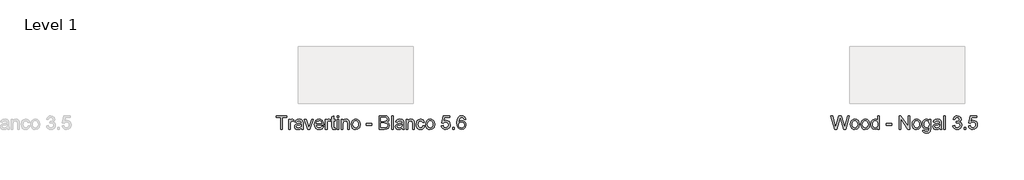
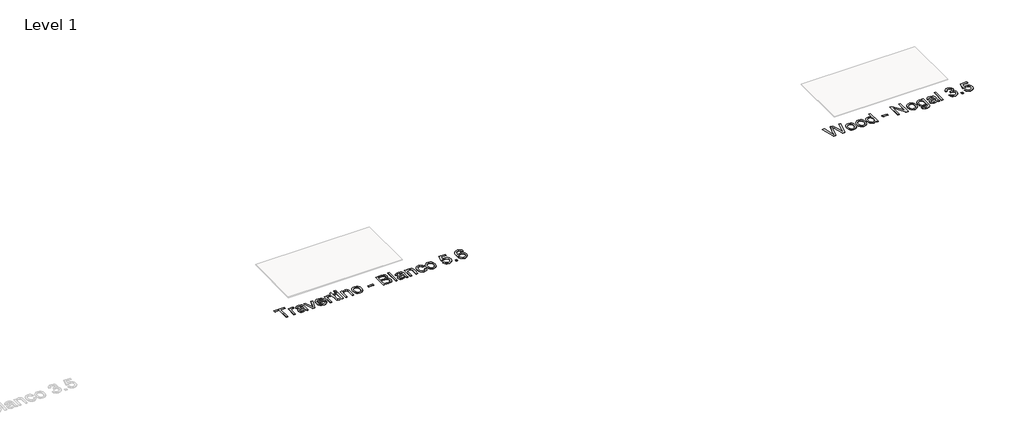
# One storey, part 20 of 80: 2 proxies.
"""IFC4 building model written with IfcOpenShell, lengths in millimetres."""

import ifcopenshell
import ifcopenshell.guid

model = None  # the IFC model being written
_history = None  # IfcOwnerHistory: only IFC2X3 demands one
_inside = {}  # id of a spatial element -> (the spatial element, [elements in it])
_under = {}  # id of a project, library or spatial element -> (it, [spatial elements below it])
_declared = {}  # id of a project -> (the project, [libraries it declares])
_typed = {}  # id of a type object -> (the type object, [elements of that type])
_made_of = {}  # id of a material, layer set ... -> (it, [elements and type objects made of it])


def new_model(schema):
    """Start an empty IFC model of exactly this schema.

    Asked for "IFC4X3", IfcOpenShell would pick the latest addendum, in which some entities
    have other attributes; the version numbers below select the first issue.
    IFC2X3 requires an IfcOwnerHistory on every rooted entity: one is made here for all.
    """
    global model, _history
    if schema == "IFC4X3":
        model = ifcopenshell.file(schema_version=(4, 3, 0, 0))
    else:
        model = ifcopenshell.file(schema=schema)
    _inside.clear()
    _under.clear()
    _declared.clear()
    _typed.clear()
    _made_of.clear()
    _history = None
    if model.schema == "IFC2X3":
        org = make("IfcOrganization", Name="unknown")
        user = make(
            "IfcPersonAndOrganization",
            ThePerson=make("IfcPerson", FamilyName="unknown"),
            TheOrganization=org,
        )
        app = make(
            "IfcApplication",
            ApplicationDeveloper=org,
            Version="unknown",
            ApplicationFullName="unknown",
            ApplicationIdentifier="unknown",
        )
        _history = make(
            "IfcOwnerHistory",
            OwningUser=user,
            OwningApplication=app,
            ChangeAction="ADDED",
            CreationDate=0,
        )
    return model


def make(cls, **values):
    """One entity of the class cls with the attributes given. An attribute that is None is left unset."""
    return model.create_entity(
        cls, **{name: value for name, value in values.items() if value is not None}
    )


def rooted(cls, **values):
    """An entity with a GlobalId (a new one), such as an element, a storey or a relation."""
    return make(cls, GlobalId=ifcopenshell.guid.new(), OwnerHistory=_history, **values)


def si_unit(unit_type, name, prefix=None):
    """IfcSIUnit, for example si_unit("LENGTHUNIT", "METRE", prefix="MILLI")."""
    return make("IfcSIUnit", UnitType=unit_type, Prefix=prefix, Name=name)


def assignment(units):
    """IfcUnitAssignment: the units of a project."""
    return None if units is None else make("IfcUnitAssignment", Units=units)


def point(xyz):
    """IfcCartesianPoint."""
    return None if xyz is None else make("IfcCartesianPoint", Coordinates=xyz)


def direction(xyz):
    """IfcDirection."""
    return None if xyz is None else make("IfcDirection", DirectionRatios=xyz)


def frame(location, z_axis=None, x_axis=None):
    """IfcAxis2Placement3D, a coordinate frame: its origin and axes. An axis left out is left unset."""
    return make(
        "IfcAxis2Placement3D",
        Location=point(location),
        Axis=direction(z_axis),
        RefDirection=direction(x_axis),
    )


def origin():
    """The frame at (0, 0, 0) with its axes left unset."""
    return frame((0.0, 0.0, 0.0))


def origin_with_axes():
    """The frame at (0, 0, 0) with the z axis (0, 0, 1) and the x axis (1, 0, 0) written out."""
    return frame((0.0, 0.0, 0.0), z_axis=(0.0, 0.0, 1.0), x_axis=(1.0, 0.0, 0.0))


def place(relative_to, where):
    """IfcLocalPlacement: puts the frame where relative to a parent placement (None: the world)."""
    return make(
        "IfcLocalPlacement", PlacementRelTo=relative_to, RelativePlacement=where
    )


def context(
    kind, dimensions, precision=None, world=None, true_north=None, identifier=None
):
    """IfcGeometricRepresentationContext, for example the 3D "Model" context."""
    return make(
        "IfcGeometricRepresentationContext",
        ContextIdentifier=identifier,
        ContextType=kind,
        CoordinateSpaceDimension=dimensions,
        Precision=precision,
        WorldCoordinateSystem=world,
        TrueNorth=true_north,
    )


def project(units=None, contexts=None):
    """IfcProject with its units and contexts."""
    return rooted(
        "IfcProject",
        Name="project",
        RepresentationContexts=contexts,
        UnitsInContext=assignment(units),
    )


def spatial(cls, under=None, at=None, **own):
    """A site, building, storey or space (cls), placed at a placement, below another one or the project."""
    s = rooted(cls, ObjectPlacement=at, **own)
    if under is not None:
        _under.setdefault(under.id(), (under, []))[1].append(s)
    return s


def polyline(points):
    """IfcPolyline through the points."""
    return make("IfcPolyline", Points=[point(p) for p in points])


def outline(outer, holes=None, kind="AREA"):
    """IfcArbitraryClosedProfileDef: a profile drawn as a closed curve; with holes, ...WithVoids."""
    if holes is None:
        return make("IfcArbitraryClosedProfileDef", ProfileType=kind, OuterCurve=outer)
    return make(
        "IfcArbitraryProfileDefWithVoids",
        ProfileType=kind,
        OuterCurve=outer,
        InnerCurves=holes,
    )


def extrude(swept, where, along, depth):
    """IfcExtrudedAreaSolid: the profile swept, set in the frame where, extruded along a direction by depth."""
    return make(
        "IfcExtrudedAreaSolid",
        SweptArea=swept,
        Position=where,
        ExtrudedDirection=direction(along),
        Depth=depth,
    )


def shape(context_of_items, identifier, shape_type, items):
    """IfcShapeRepresentation: the items that make up one representation, for example the "Body"."""
    return make(
        "IfcShapeRepresentation",
        ContextOfItems=context_of_items,
        RepresentationIdentifier=identifier,
        RepresentationType=shape_type,
        Items=items,
    )


def made_of(thing, what):
    """Note that an element or type object is made of a material, layer set ...; save() writes the relation."""
    if what is not None:
        _made_of.setdefault(what.id(), (what, []))[1].append(thing)
    return thing


def element(
    cls,
    number,
    at=None,
    inside=None,
    cuts=None,
    type_object=None,
    material=None,
    context=None,
    identifier="Body",
    shape_type=None,
    held_by="IfcProductDefinitionShape",
    body=None,
    shapes=None,
    **own,
):
    """One element of the class cls, such as IfcWall. Its Tag is "e" and its number.

    at: its placement. inside: the storey or other place that contains it. cuts: it is an
    opening in that element (IfcRelVoidsElement). A single representation is given by context,
    identifier, shape_type and body (its items); several are given by shapes. held_by: the class
    of the entity that holds the representations. save() writes the other relations.
    """
    e = rooted(cls, Tag="e%d" % number, ObjectPlacement=at, **own)
    if body is not None:
        shapes = [shape(context, identifier, shape_type, body)]
    if shapes is not None:
        e.Representation = make(held_by, Representations=shapes)
    if inside is not None:
        _inside.setdefault(inside.id(), (inside, []))[1].append(e)
    if cuts is not None:
        rooted(
            "IfcRelVoidsElement", RelatingBuildingElement=cuts, RelatedOpeningElement=e
        )
    if type_object is not None:
        _typed.setdefault(type_object.id(), (type_object, []))[1].append(e)
    return made_of(e, material)


def aggregate(whole, parts):
    """IfcRelAggregates: a whole, such as a stair, and the parts it consists of."""
    return rooted("IfcRelAggregates", RelatingObject=whole, RelatedObjects=parts)


def save(model, path):
    """Write the relations noted so far, then the file.

    IfcRelAggregates (storeys below a building ...), IfcRelContainedInSpatialStructure (elements
    in a storey), IfcRelDefinesByType, IfcRelAssociatesMaterial and IfcRelDeclares: one each for
    every whole, place, type object, material and project.
    """
    for whole, parts in _under.values():
        aggregate(whole, parts)
    for where, things in _inside.values():
        rooted(
            "IfcRelContainedInSpatialStructure",
            RelatedElements=things,
            RelatingStructure=where,
        )
    for kind, things in _typed.values():
        rooted("IfcRelDefinesByType", RelatedObjects=things, RelatingType=kind)
    for what, things in _made_of.values():
        rooted("IfcRelAssociatesMaterial", RelatedObjects=things, RelatingMaterial=what)
    for by, libraries in _declared.values():
        rooted("IfcRelDeclares", RelatingContext=by, RelatedDefinitions=libraries)
    model.write(path)


model = new_model("IFC4")

# Units and contexts
model_context = context("Model", 3, world=origin())
ifc_project = project(units=[si_unit("LENGTHUNIT", "METRE", prefix="MILLI")], contexts=[model_context])

# Site, building, storey
site = spatial("IfcSite", under=ifc_project)
building = spatial("IfcBuilding", under=site)
storey = spatial("IfcBuildingStorey", under=building, Name="Level 1", Elevation=0.0)

# Proxies
placement = place(None, origin())
element("IfcBuildingElementProxy", 1, Name="24\" Arial", ObjectType="24\" Arial", at=placement, inside=storey, context=model_context, shape_type="SweptSolid", body=[
    extrude(outline(polyline([(-15856.3068771, -12422.5921493), (-15856.3068771, -12319.2075339), (-15895.0761079, -12319.2075339), (-15895.0761079, -12304.4383031), (-15802.7684156, -12304.4383031), (-15802.7684156, -12319.2075339), (-15841.5376464, -12319.2075339), (-15841.5376464, -12422.5921493), (-15856.3068771, -12422.5921493)])), origin_with_axes(), (0.0, 0.0, 1.0), 2.0),
    extrude(outline(polyline([(-15787.9991848, -12422.5921493), (-15787.9991848, -12335.8229185), (-15775.0761079, -12335.8229185), (-15775.0761079, -12348.659457), (-15765.903031, -12336.8325339), (-15756.6722617, -12333.9767646), (-15741.8453387, -12338.534457), (-15746.778031, -12351.7748416), (-15757.1626464, -12348.7459954), (-15765.5136079, -12351.659457), (-15770.8357233, -12359.73638), (-15773.2299541, -12376.98638), (-15773.2299541, -12422.5921493), (-15787.9991848, -12422.5921493)])), origin_with_axes(), (0.0, 0.0, 1.0), 2.0),
    extrude(outline(polyline([(-15677.2299541, -12411.5152262), (-15691.5520694, -12421.5248416), (-15707.3741848, -12424.4383031), (-15719.7167329, -12422.6858993), (-15728.8213002, -12417.4286877), (-15734.4354829, -12409.4455146), (-15736.3068771, -12399.5152262), (-15733.4799541, -12387.8325339), (-15726.0520694, -12379.3517646), (-15715.7107233, -12374.5056108), (-15702.9318771, -12372.284457), (-15677.3164925, -12367.2075339), (-15677.2299541, -12363.9190723), (-15681.2972617, -12353.0152262), (-15697.6241848, -12348.7459954), (-15712.5664925, -12351.5873416), (-15719.6914925, -12361.6690723), (-15734.4607233, -12359.8229185), (-15728.0713002, -12345.3998416), (-15715.2059156, -12336.9479185), (-15695.7203387, -12333.9767646), (-15677.8213002, -12336.6017646), (-15667.7107233, -12343.1931108), (-15663.1818771, -12353.2171493), (-15662.4607233, -12366.1402262), (-15662.4607233, -12384.5152262), (-15661.7107233, -12410.17388), (-15658.7684156, -12422.5921493), (-15673.5376464, -12422.5921493), (-15677.2299541, -12411.5152262)]), holes=[polyline([(-15677.2299541, -12381.9767646), (-15701.0568771, -12386.5056108), (-15713.7636079, -12388.8998416), (-15719.5184156, -12392.7940723), (-15721.5376464, -12398.4767646), (-15717.1386079, -12406.4671493), (-15704.2299541, -12409.6690723), (-15689.2876464, -12406.1354185), (-15679.653031, -12397.5825339), (-15677.3164925, -12386.159457), (-15677.2299541, -12381.9767646)])]), origin_with_axes(), (0.0, 0.0, 1.0), 2.0),
    extrude(outline(polyline([(-15620.8645694, -12422.5921493), (-15651.3838002, -12335.8229185), (-15635.7491848, -12335.8229185), (-15617.2588002, -12387.8036877), (-15611.6914925, -12405.284457), (-15606.2395694, -12388.784457), (-15587.6338002, -12335.8229185), (-15571.9991848, -12335.8229185), (-15602.1434156, -12422.5921493), (-15620.8645694, -12422.5921493)])), origin_with_axes(), (0.0, 0.0, 1.0), 2.0),
    extrude(outline(polyline([(-15498.3261079, -12396.7459954), (-15483.8453387, -12398.5921493), (-15489.0628867, -12409.503207), (-15497.3886079, -12417.659457), (-15508.6350021, -12422.7435916), (-15522.6145694, -12424.4383031), (-15539.9438964, -12421.5140243), (-15553.278031, -12412.7411877), (-15561.7804348, -12398.689505), (-15564.6145694, -12379.9286877), (-15561.7515887, -12360.5368608), (-15553.1626464, -12346.034457), (-15540.0088002, -12336.9911877), (-15523.4511079, -12333.9767646), (-15507.4090406, -12336.9839762), (-15494.590531, -12346.0056108), (-15486.1854829, -12360.4791685), (-15483.3838002, -12379.8421493), (-15483.4703387, -12383.8229185), (-15549.8453387, -12383.8229185), (-15547.2888483, -12394.878207), (-15541.3501464, -12403.0056108), (-15532.7792329, -12408.003207), (-15522.3261079, -12409.6690723), (-15507.8453387, -12406.5825339), (-15498.3261079, -12396.7459954)]), holes=[polyline([(-15549.8453387, -12369.0536877), (-15498.153031, -12369.0536877), (-15504.0664925, -12355.6690723), (-15512.6770694, -12350.4767646), (-15523.5088002, -12348.7459954), (-15541.6963002, -12354.2700339), (-15547.418656, -12360.7279666), (-15549.8453387, -12369.0536877)])]), origin_with_axes(), (0.0, 0.0, 1.0), 2.0),
    extrude(outline(polyline([(-15468.6145694, -12422.5921493), (-15468.6145694, -12335.8229185), (-15455.6914925, -12335.8229185), (-15455.6914925, -12348.659457), (-15446.5184156, -12336.8325339), (-15437.2876464, -12333.9767646), (-15422.4607233, -12338.534457), (-15427.3934156, -12351.7748416), (-15437.778031, -12348.7459954), (-15446.1289925, -12351.659457), (-15451.4511079, -12359.73638), (-15453.8453387, -12376.98638), (-15453.8453387, -12422.5921493), (-15468.6145694, -12422.5921493)])), origin_with_axes(), (0.0, 0.0, 1.0), 2.0),
    extrude(outline(polyline([(-15381.8453387, -12410.2748416), (-15379.9991848, -12423.0248416), (-15391.0472617, -12424.4383031), (-15403.4222617, -12421.98638), (-15409.5953387, -12415.5536877), (-15411.3838002, -12398.7940723), (-15411.3838002, -12350.5921493), (-15422.4607233, -12350.5921493), (-15422.4607233, -12335.8229185), (-15411.3838002, -12335.8229185), (-15411.3838002, -12314.73638), (-15396.6145694, -12306.0536877), (-15396.6145694, -12335.8229185), (-15381.8453387, -12335.8229185), (-15381.8453387, -12350.5921493), (-15396.6145694, -12350.5921493), (-15396.6145694, -12398.36138), (-15395.8357233, -12405.9767646), (-15393.3116848, -12408.67388), (-15388.278031, -12409.6690723), (-15381.8453387, -12410.2748416)])), origin_with_axes(), (0.0, 0.0, 1.0), 2.0),
    extrude(outline(polyline([(-15367.0761079, -12319.2075339), (-15367.0761079, -12304.4383031), (-15352.3068771, -12304.4383031), (-15352.3068771, -12319.2075339), (-15367.0761079, -12319.2075339)])), origin_with_axes(), (0.0, 0.0, 1.0), 2.0),
    extrude(outline(polyline([(-15367.0761079, -12422.5921493), (-15367.0761079, -12335.8229185), (-15352.3068771, -12335.8229185), (-15352.3068771, -12422.5921493), (-15367.0761079, -12422.5921493)])), origin_with_axes(), (0.0, 0.0, 1.0), 2.0),
    extrude(outline(polyline([(-15330.153031, -12422.5921493), (-15330.153031, -12335.8229185), (-15315.3838002, -12335.8229185), (-15315.3838002, -12347.9383031), (-15304.090531, -12337.4671493), (-15288.6722617, -12333.9767646), (-15274.7251464, -12336.7892646), (-15265.2059156, -12344.17388), (-15260.778031, -12355.034457), (-15259.9991848, -12369.3133031), (-15259.9991848, -12422.5921493), (-15274.7684156, -12422.5921493), (-15274.7684156, -12371.3036877), (-15276.4703387, -12358.23638), (-15282.4847617, -12351.3277262), (-15292.6241848, -12348.7459954), (-15308.6482233, -12354.5440723), (-15313.699906, -12362.9455146), (-15315.3838002, -12376.5536877), (-15315.3838002, -12422.5921493), (-15330.153031, -12422.5921493)])), origin_with_axes(), (0.0, 0.0, 1.0), 2.0),
    extrude(outline(polyline([(-15243.3838002, -12379.2075339), (-15240.1890887, -12358.2868608), (-15230.6049541, -12343.5825339), (-15218.7636079, -12336.378207), (-15204.5857233, -12333.9767646), (-15189.0700983, -12336.9010435), (-15176.6770694, -12345.67388), (-15168.5532714, -12359.6029666), (-15165.8453387, -12377.9959954), (-15170.6338002, -12404.2748416), (-15184.5809156, -12419.1450339), (-15204.5857233, -12424.4383031), (-15220.2888483, -12421.5248416), (-15232.6674541, -12412.784457), (-15240.7047137, -12398.5633031), (-15243.3838002, -12379.2075339)]), holes=[polyline([(-15228.6145694, -12379.1786877), (-15226.9054348, -12392.5452743), (-15221.778031, -12402.0681108), (-15214.0616848, -12407.768832), (-15204.5857233, -12409.6690723), (-15195.153031, -12407.7580146), (-15187.4511079, -12402.0248416), (-15182.3237041, -12392.3758031), (-15180.6145694, -12378.7171493), (-15182.3345214, -12365.7399858), (-15187.4943771, -12356.346957), (-15195.2071175, -12350.6462358), (-15204.5857233, -12348.7459954), (-15214.0616848, -12350.6390243), (-15221.778031, -12356.3181108), (-15226.9054348, -12365.8193127), (-15228.6145694, -12379.1786877)])]), origin_with_axes(), (0.0, 0.0, 1.0), 2.0),
    extrude(outline(polyline([(-15110.4607233, -12387.5152262), (-15110.4607233, -12372.7459954), (-15064.3068771, -12372.7459954), (-15064.3068771, -12387.5152262), (-15110.4607233, -12387.5152262)])), origin_with_axes(), (0.0, 0.0, 1.0), 2.0),
    extrude(outline(polyline([(-14999.6914925, -12422.5921493), (-14999.6914925, -12304.4383031), (-14954.6049541, -12304.4383031), (-14932.5232233, -12307.9142646), (-14919.4847617, -12318.6017646), (-14914.7684156, -12333.7171493), (-14918.7347617, -12347.5200339), (-14930.7203387, -12357.9767646), (-14916.1674541, -12368.9959954), (-14911.0761079, -12387.3709954), (-14914.5520694, -12403.2508031), (-14923.1626464, -12414.5584954), (-14936.0136079, -12420.5584954), (-14954.9511079, -12422.5921493), (-14999.6914925, -12422.5921493)]), holes=[polyline([(-14984.9222617, -12407.8229185), (-14954.6338002, -12407.8229185), (-14943.6722617, -12407.2459954), (-14934.3982233, -12404.0296493), (-14928.2539925, -12397.4671493), (-14925.8453387, -12387.5152262), (-14928.6722617, -12376.034457), (-14937.8309156, -12369.1834954), (-14956.0761079, -12367.2075339), (-14984.9222617, -12367.2075339), (-14984.9222617, -12407.8229185)]), polyline([(-14984.9222617, -12352.4383031), (-14957.9511079, -12352.4383031), (-14942.2011079, -12351.1690723), (-14932.7251464, -12345.7027262), (-14929.5376464, -12336.0825339), (-14932.5088002, -12326.4479185), (-14941.0184156, -12320.7508031), (-14959.9991848, -12319.2075339), (-14984.9222617, -12319.2075339), (-14984.9222617, -12352.4383031)])]), origin_with_axes(), (0.0, 0.0, 1.0), 2.0),
    extrude(outline(polyline([(-14892.6145694, -12422.5921493), (-14892.6145694, -12304.4383031), (-14877.8453387, -12304.4383031), (-14877.8453387, -12422.5921493), (-14892.6145694, -12422.5921493)])), origin_with_axes(), (0.0, 0.0, 1.0), 2.0),
    extrude(outline(polyline([(-14800.3068771, -12411.5152262), (-14814.6289925, -12421.5248416), (-14830.4511079, -12424.4383031), (-14842.793656, -12422.6858993), (-14851.8982233, -12417.4286877), (-14857.512406, -12409.4455146), (-14859.3838002, -12399.5152262), (-14856.5568771, -12387.8325339), (-14849.1289925, -12379.3517646), (-14838.7876464, -12374.5056108), (-14826.0088002, -12372.284457), (-14800.3934156, -12367.2075339), (-14800.3068771, -12363.9190723), (-14804.3741848, -12353.0152262), (-14820.7011079, -12348.7459954), (-14835.6434156, -12351.5873416), (-14842.7684156, -12361.6690723), (-14857.5376464, -12359.8229185), (-14851.1482233, -12345.3998416), (-14838.2828387, -12336.9479185), (-14818.7972617, -12333.9767646), (-14800.8982233, -12336.6017646), (-14790.7876464, -12343.1931108), (-14786.2588002, -12353.2171493), (-14785.5376464, -12366.1402262), (-14785.5376464, -12384.5152262), (-14784.7876464, -12410.17388), (-14781.8453387, -12422.5921493), (-14796.6145694, -12422.5921493), (-14800.3068771, -12411.5152262)]), holes=[polyline([(-14800.3068771, -12381.9767646), (-14824.1338002, -12386.5056108), (-14836.840531, -12388.8998416), (-14842.5953387, -12392.7940723), (-14844.6145694, -12398.4767646), (-14840.215531, -12406.4671493), (-14827.3068771, -12409.6690723), (-14812.3645694, -12406.1354185), (-14802.7299541, -12397.5825339), (-14800.3934156, -12386.159457), (-14800.3068771, -12381.9767646)])]), origin_with_axes(), (0.0, 0.0, 1.0), 2.0),
    extrude(outline(polyline([(-14765.2299541, -12422.5921493), (-14765.2299541, -12335.8229185), (-14750.4607233, -12335.8229185), (-14750.4607233, -12347.9383031), (-14739.1674541, -12337.4671493), (-14723.7491848, -12333.9767646), (-14709.8020694, -12336.7892646), (-14700.2828387, -12344.17388), (-14695.8549541, -12355.034457), (-14695.0761079, -12369.3133031), (-14695.0761079, -12422.5921493), (-14709.8453387, -12422.5921493), (-14709.8453387, -12371.3036877), (-14711.5472617, -12358.23638), (-14717.5616848, -12351.3277262), (-14727.7011079, -12348.7459954), (-14743.7251464, -12354.5440723), (-14748.7768291, -12362.9455146), (-14750.4607233, -12376.5536877), (-14750.4607233, -12422.5921493), (-14765.2299541, -12422.5921493)])), origin_with_axes(), (0.0, 0.0, 1.0), 2.0),
    extrude(outline(polyline([(-14619.3838002, -12391.2075339), (-14604.6145694, -12393.0536877), (-14608.7323579, -12406.189505), (-14616.4703387, -12416.1161877), (-14627.1001464, -12422.3577743), (-14639.8934156, -12424.4383031), (-14655.6037521, -12421.5356589), (-14667.8886079, -12412.8277262), (-14675.8176944, -12398.6967166), (-14678.4607233, -12379.5248416), (-14673.9463002, -12354.9911877), (-14668.2491848, -12345.7928704), (-14660.1866848, -12339.2267646), (-14640.0953387, -12333.9767646), (-14627.6157714, -12335.7796493), (-14617.6386079, -12341.1883031), (-14610.481156, -12349.9142646), (-14606.4607233, -12361.6690723), (-14621.2299541, -12363.5152262), (-14628.0809156, -12352.4527262), (-14639.9799541, -12348.7459954), (-14649.5244252, -12350.5705146), (-14657.1001464, -12356.0440723), (-14662.043656, -12365.4623416), (-14663.6914925, -12379.1209954), (-14662.0797137, -12392.9635435), (-14657.2443771, -12402.4142646), (-14649.8056752, -12407.8553704), (-14640.3838002, -12409.6690723), (-14626.465531, -12405.1402262), (-14619.3838002, -12391.2075339)])), origin_with_axes(), (0.0, 0.0, 1.0), 2.0),
    extrude(outline(polyline([(-14595.3838002, -12379.2075339), (-14592.1890887, -12358.2868608), (-14582.6049541, -12343.5825339), (-14570.7636079, -12336.378207), (-14556.5857233, -12333.9767646), (-14541.0700983, -12336.9010435), (-14528.6770694, -12345.67388), (-14520.5532714, -12359.6029666), (-14517.8453387, -12377.9959954), (-14522.6338002, -12404.2748416), (-14536.5809156, -12419.1450339), (-14556.5857233, -12424.4383031), (-14572.2888483, -12421.5248416), (-14584.6674541, -12412.784457), (-14592.7047137, -12398.5633031), (-14595.3838002, -12379.2075339)]), holes=[polyline([(-14580.6145694, -12379.1786877), (-14578.9054348, -12392.5452743), (-14573.778031, -12402.0681108), (-14566.0616848, -12407.768832), (-14556.5857233, -12409.6690723), (-14547.153031, -12407.7580146), (-14539.4511079, -12402.0248416), (-14534.3237041, -12392.3758031), (-14532.6145694, -12378.7171493), (-14534.3345214, -12365.7399858), (-14539.4943771, -12356.346957), (-14547.2071175, -12350.6462358), (-14556.5857233, -12348.7459954), (-14566.0616848, -12350.6390243), (-14573.778031, -12356.3181108), (-14578.9054348, -12365.8193127), (-14580.6145694, -12379.1786877)])]), origin_with_axes(), (0.0, 0.0, 1.0), 2.0),
    extrude(outline(polyline([(-14458.7684156, -12391.2075339), (-14443.9991848, -12389.36138), (-14436.5568771, -12404.5777262), (-14421.1241848, -12409.6690723), (-14410.5376464, -12407.8986396), (-14402.6049541, -12402.5873416), (-14397.6506271, -12394.3481589), (-14395.9991848, -12383.7940723), (-14397.5460598, -12373.8565723), (-14402.1866848, -12366.2556108), (-14409.9571175, -12361.4310916), (-14420.8934156, -12359.8229185), (-14433.8597617, -12362.3902262), (-14442.153031, -12369.0536877), (-14456.9222617, -12367.2075339), (-14443.9991848, -12306.284457), (-14386.7684156, -12306.284457), (-14386.7684156, -12321.0536877), (-14432.0568771, -12321.0536877), (-14438.3741848, -12353.5921493), (-14427.8237041, -12347.1883031), (-14416.7684156, -12345.0536877), (-14402.9691367, -12347.7003223), (-14391.5136079, -12355.6402262), (-14383.8008675, -12367.7411877), (-14381.2299541, -12382.8709954), (-14383.5448579, -12397.6402262), (-14390.4895694, -12410.2748416), (-14403.7876464, -12420.8974377), (-14421.1818771, -12424.4383031), (-14435.6878867, -12422.1630627), (-14447.2443771, -12415.3373416), (-14455.1662521, -12404.7544089), (-14458.7684156, -12391.2075339)])), origin_with_axes(), (0.0, 0.0, 1.0), 2.0),
    extrude(outline(polyline([(-14360.9222617, -12422.5921493), (-14360.9222617, -12407.8229185), (-14346.153031, -12407.8229185), (-14346.153031, -12422.5921493), (-14360.9222617, -12422.5921493)])), origin_with_axes(), (0.0, 0.0, 1.0), 2.0),
    extrude(outline(polyline([(-14246.4607233, -12335.8229185), (-14261.2299541, -12337.6690723), (-14266.8261079, -12325.3517646), (-14273.5256271, -12320.7435916), (-14281.6241848, -12319.2075339), (-14294.9511079, -12322.784457), (-14305.0328387, -12336.2123416), (-14309.2299541, -12362.534457), (-14296.2059156, -12350.7508031), (-14280.0664925, -12346.8998416), (-14266.4222617, -12349.5320531), (-14254.9703387, -12357.4286877), (-14247.2035117, -12369.4935916), (-14244.6145694, -12384.6306108), (-14249.4895694, -12405.0104185), (-14262.903031, -12419.4334954), (-14282.2588002, -12424.4383031), (-14299.0148098, -12421.1209954), (-14312.3597617, -12411.1690723), (-14321.0893291, -12393.6017646), (-14323.9991848, -12367.4383031), (-14320.7684156, -12338.0224377), (-14311.0761079, -12317.909457), (-14297.8429348, -12307.8060916), (-14280.7011079, -12304.4383031), (-14267.7419733, -12306.5224377), (-14257.3645694, -12312.7748416), (-14250.0953387, -12322.70513), (-14246.4607233, -12335.8229185)]), holes=[polyline([(-14309.2299541, -12384.3998416), (-14305.8116848, -12397.1931108), (-14296.7251464, -12406.4815723), (-14283.4126464, -12409.6690723), (-14273.6662521, -12408.01763), (-14266.0039925, -12403.0633031), (-14261.0388483, -12395.2748416), (-14259.3838002, -12385.1209954), (-14261.0172137, -12375.3746012), (-14265.9174541, -12367.9431108), (-14273.7095214, -12363.237582), (-14284.0184156, -12361.6690723), (-14293.7503867, -12363.237582), (-14301.8886079, -12367.9431108), (-14307.3946175, -12375.1943127), (-14309.2299541, -12384.3998416)])]), origin_with_axes(), (0.0, 0.0, 1.0), 2.0),
])
element("IfcBuildingElementProxy", 2, Name="24\" Arial", ObjectType="24\" Arial", at=placement, inside=storey, context=model_context, shape_type="SweptSolid", body=[
    extrude(outline(polyline([(-11036.3934156, -12422.5921493), (-11068.6145694, -12304.4383031), (-11053.3838002, -12304.4383031), (-11034.6914925, -12382.0921493), (-11028.9222617, -12406.0633031), (-11022.7491848, -12384.86138), (-10999.3261079, -12304.4383031), (-10977.3741848, -12304.4383031), (-10960.3549541, -12362.73638), (-10947.6914925, -12406.0633031), (-10942.0953387, -12382.784457), (-10923.2299541, -12304.4383031), (-10907.9991848, -12304.4383031), (-10940.2491848, -12422.5921493), (-10956.028031, -12422.5921493), (-10984.3549541, -12331.4383031), (-10988.3068771, -12318.7171493), (-10992.7491848, -12334.034457), (-11018.5664925, -12422.5921493), (-11036.3934156, -12422.5921493)])), origin_with_axes(), (0.0, 0.0, 1.0), 2.0),
    extrude(outline(polyline([(-10898.7684156, -12379.2075339), (-10895.5737041, -12358.2868608), (-10885.9895694, -12343.5825339), (-10874.1482233, -12336.378207), (-10859.9703387, -12333.9767646), (-10844.4547137, -12336.9010435), (-10832.0616848, -12345.67388), (-10823.9378867, -12359.6029666), (-10821.2299541, -12377.9959954), (-10826.0184156, -12404.2748416), (-10839.965531, -12419.1450339), (-10859.9703387, -12424.4383031), (-10875.6734637, -12421.5248416), (-10888.0520694, -12412.784457), (-10896.0893291, -12398.5633031), (-10898.7684156, -12379.2075339)]), holes=[polyline([(-10883.9991848, -12379.1786877), (-10882.2900502, -12392.5452743), (-10877.1626464, -12402.0681108), (-10869.4463002, -12407.768832), (-10859.9703387, -12409.6690723), (-10850.5376464, -12407.7580146), (-10842.8357233, -12402.0248416), (-10837.7083194, -12392.3758031), (-10835.9991848, -12378.7171493), (-10837.7191367, -12365.7399858), (-10842.8789925, -12356.346957), (-10850.5917329, -12350.6462358), (-10859.9703387, -12348.7459954), (-10869.4463002, -12350.6390243), (-10877.1626464, -12356.3181108), (-10882.2900502, -12365.8193127), (-10883.9991848, -12379.1786877)])]), origin_with_axes(), (0.0, 0.0, 1.0), 2.0),
    extrude(outline(polyline([(-10808.3068771, -12379.2075339), (-10805.1121656, -12358.2868608), (-10795.528031, -12343.5825339), (-10783.6866848, -12336.378207), (-10769.5088002, -12333.9767646), (-10753.9931752, -12336.9010435), (-10741.6001464, -12345.67388), (-10733.4763483, -12359.6029666), (-10730.7684156, -12377.9959954), (-10735.5568771, -12404.2748416), (-10749.5039925, -12419.1450339), (-10769.5088002, -12424.4383031), (-10785.2119252, -12421.5248416), (-10797.590531, -12412.784457), (-10805.6277906, -12398.5633031), (-10808.3068771, -12379.2075339)]), holes=[polyline([(-10793.5376464, -12379.1786877), (-10791.8285117, -12392.5452743), (-10786.7011079, -12402.0681108), (-10778.9847617, -12407.768832), (-10769.5088002, -12409.6690723), (-10760.0761079, -12407.7580146), (-10752.3741848, -12402.0248416), (-10747.246781, -12392.3758031), (-10745.5376464, -12378.7171493), (-10747.2575983, -12365.7399858), (-10752.4174541, -12356.346957), (-10760.1301944, -12350.6462358), (-10769.5088002, -12348.7459954), (-10778.9847617, -12350.6390243), (-10786.7011079, -12356.3181108), (-10791.8285117, -12365.8193127), (-10793.5376464, -12379.1786877)])]), origin_with_axes(), (0.0, 0.0, 1.0), 2.0),
    extrude(outline(polyline([(-10660.6145694, -12422.5921493), (-10660.6145694, -12408.659457), (-10670.3862041, -12420.4935916), (-10683.8934156, -12424.4383031), (-10702.1818771, -12418.7267646), (-10715.1049541, -12402.7892646), (-10719.6914925, -12379.2940723), (-10715.465531, -12355.784457), (-10710.1866848, -12346.4599377), (-10702.8020694, -12339.6017646), (-10683.9511079, -12333.9767646), (-10670.3357233, -12338.0008031), (-10660.6145694, -12348.4575339), (-10660.6145694, -12304.4383031), (-10645.8453387, -12304.4383031), (-10645.8453387, -12422.5921493), (-10660.6145694, -12422.5921493)]), holes=[polyline([(-10704.9222617, -12379.23638), (-10703.2563964, -12392.595755), (-10698.2588002, -12402.096957), (-10690.996781, -12407.7760435), (-10682.5376464, -12409.6690723), (-10674.0821175, -12407.862582), (-10667.0039925, -12402.4431108), (-10662.2119252, -12393.3096973), (-10660.6145694, -12380.36138), (-10662.2407714, -12366.20513), (-10667.1193771, -12356.3902262), (-10674.3777906, -12350.6570531), (-10683.1434156, -12348.7459954), (-10691.6890887, -12350.581332), (-10698.6914925, -12356.0873416), (-10703.3645694, -12365.5452743), (-10704.9222617, -12379.23638)])]), origin_with_axes(), (0.0, 0.0, 1.0), 2.0),
    extrude(outline(polyline([(-10584.9222617, -12387.5152262), (-10584.9222617, -12372.7459954), (-10538.7684156, -12372.7459954), (-10538.7684156, -12387.5152262), (-10584.9222617, -12387.5152262)])), origin_with_axes(), (0.0, 0.0, 1.0), 2.0),
    extrude(outline(polyline([(-10474.153031, -12422.5921493), (-10474.153031, -12304.4383031), (-10458.3453387, -12304.4383031), (-10396.6145694, -12398.0440723), (-10396.6145694, -12304.4383031), (-10381.8453387, -12304.4383031), (-10381.8453387, -12422.5921493), (-10397.653031, -12422.5921493), (-10459.3838002, -12328.9575339), (-10459.3838002, -12422.5921493), (-10474.153031, -12422.5921493)])), origin_with_axes(), (0.0, 0.0, 1.0), 2.0),
    extrude(outline(polyline([(-10361.5376464, -12379.2075339), (-10358.3429348, -12358.2868608), (-10348.7588002, -12343.5825339), (-10336.9174541, -12336.378207), (-10322.7395694, -12333.9767646), (-10307.2239444, -12336.9010435), (-10294.8309156, -12345.67388), (-10286.7071175, -12359.6029666), (-10283.9991848, -12377.9959954), (-10288.7876464, -12404.2748416), (-10302.7347617, -12419.1450339), (-10322.7395694, -12424.4383031), (-10338.4426944, -12421.5248416), (-10350.8213002, -12412.784457), (-10358.8585598, -12398.5633031), (-10361.5376464, -12379.2075339)]), holes=[polyline([(-10346.7684156, -12379.1786877), (-10345.059281, -12392.5452743), (-10339.9318771, -12402.0681108), (-10332.215531, -12407.768832), (-10322.7395694, -12409.6690723), (-10313.3068771, -12407.7580146), (-10305.6049541, -12402.0248416), (-10300.4775502, -12392.3758031), (-10298.7684156, -12378.7171493), (-10300.4883675, -12365.7399858), (-10305.6482233, -12356.346957), (-10313.3609637, -12350.6462358), (-10322.7395694, -12348.7459954), (-10332.215531, -12350.6390243), (-10339.9318771, -12356.3181108), (-10345.059281, -12365.8193127), (-10346.7684156, -12379.1786877)])]), origin_with_axes(), (0.0, 0.0, 1.0), 2.0),
    extrude(outline(polyline([(-10271.0761079, -12429.9767646), (-10256.3068771, -12431.8229185), (-10251.5184156, -12439.61138), (-10237.1818771, -12442.8998416), (-10222.0664925, -12439.1786877), (-10214.8549541, -12428.73638), (-10213.8453387, -12411.5152262), (-10224.2443771, -12419.8229185), (-10236.9222617, -12422.5921493), (-10252.1494252, -12419.3685916), (-10263.5039925, -12409.6979185), (-10270.5676944, -12395.5200339), (-10272.9222617, -12378.7748416), (-10268.6963002, -12355.8854185), (-10256.465531, -12339.6883031), (-10237.6434156, -12333.9767646), (-10224.4679348, -12337.2075339), (-10213.8453387, -12346.8998416), (-10213.8453387, -12335.8229185), (-10199.0761079, -12335.8229185), (-10199.0761079, -12410.73638), (-10203.1145694, -12439.42388), (-10215.9078387, -12452.7652262), (-10237.4703387, -12457.6690723), (-10251.2119252, -12455.9419089), (-10262.0328387, -12450.7604185), (-10268.9739444, -12442.1101781), (-10271.0761079, -12429.9767646)]), holes=[polyline([(-10258.153031, -12377.7652262), (-10256.5773098, -12391.3121012), (-10251.8501464, -12400.6258031), (-10244.7431752, -12406.0236396), (-10236.028031, -12407.8229185), (-10227.3777906, -12406.034457), (-10220.2347617, -12400.6690723), (-10215.4426944, -12391.4743608), (-10213.8453387, -12378.1979185), (-10215.4895694, -12365.393832), (-10220.4222617, -12356.17388), (-10227.6698579, -12350.6029666), (-10236.2588002, -12348.7459954), (-10244.6926944, -12350.5741204), (-10251.7636079, -12356.0584954), (-10256.5556752, -12365.1414281), (-10258.153031, -12377.7652262)])]), origin_with_axes(), (0.0, 0.0, 1.0), 2.0),
    extrude(outline(polyline([(-10121.5376464, -12411.5152262), (-10135.8597617, -12421.5248416), (-10151.6818771, -12424.4383031), (-10164.0244252, -12422.6858993), (-10173.1289925, -12417.4286877), (-10178.7431752, -12409.4455146), (-10180.6145694, -12399.5152262), (-10177.7876464, -12387.8325339), (-10170.3597617, -12379.3517646), (-10160.0184156, -12374.5056108), (-10147.2395694, -12372.284457), (-10121.6241848, -12367.2075339), (-10121.5376464, -12363.9190723), (-10125.6049541, -12353.0152262), (-10141.9318771, -12348.7459954), (-10156.8741848, -12351.5873416), (-10163.9991848, -12361.6690723), (-10178.7684156, -12359.8229185), (-10172.3789925, -12345.3998416), (-10159.5136079, -12336.9479185), (-10140.028031, -12333.9767646), (-10122.1289925, -12336.6017646), (-10112.0184156, -12343.1931108), (-10107.4895694, -12353.2171493), (-10106.7684156, -12366.1402262), (-10106.7684156, -12384.5152262), (-10106.0184156, -12410.17388), (-10103.0761079, -12422.5921493), (-10117.8453387, -12422.5921493), (-10121.5376464, -12411.5152262)]), holes=[polyline([(-10121.5376464, -12381.9767646), (-10145.3645694, -12386.5056108), (-10158.0713002, -12388.8998416), (-10163.8261079, -12392.7940723), (-10165.8453387, -12398.4767646), (-10161.4463002, -12406.4671493), (-10148.5376464, -12409.6690723), (-10133.5953387, -12406.1354185), (-10123.9607233, -12397.5825339), (-10121.6241848, -12386.159457), (-10121.5376464, -12381.9767646)])]), origin_with_axes(), (0.0, 0.0, 1.0), 2.0),
    extrude(outline(polyline([(-10086.4607233, -12422.5921493), (-10086.4607233, -12304.4383031), (-10071.6914925, -12304.4383031), (-10071.6914925, -12422.5921493), (-10086.4607233, -12422.5921493)])), origin_with_axes(), (0.0, 0.0, 1.0), 2.0),
    extrude(outline(polyline([(-10007.0761079, -12391.2075339), (-9992.3068771, -12389.36138), (-9984.1578387, -12404.909457), (-9968.9126464, -12409.6690723), (-9958.7876464, -12408.0320531), (-9950.9703387, -12403.1209954), (-9945.9727425, -12395.7940723), (-9944.3068771, -12386.909457), (-9945.9583194, -12378.4755627), (-9950.9126464, -12371.6354185), (-9958.4126464, -12367.1029666), (-9967.7011079, -12365.5921493), (-9978.0568771, -12367.2075339), (-9976.4126464, -12352.4383031), (-9974.0472617, -12352.61138), (-9957.2876464, -12348.3709954), (-9951.7059156, -12342.9911877), (-9949.8453387, -12335.3325339), (-9955.2395694, -12323.7796493), (-9969.1434156, -12319.2075339), (-9983.2203387, -12323.8229185), (-9990.4607233, -12337.6690723), (-10005.2299541, -12335.8229185), (-10000.8813964, -12322.5608993), (-9993.1434156, -12312.659457), (-9982.5568771, -12306.4935916), (-9969.6626464, -12304.4383031), (-9951.8501464, -12308.4911877), (-9939.3886079, -12319.5681108), (-9935.0761079, -12334.4671493), (-9939.1722617, -12348.0825339), (-9951.2876464, -12357.86138), (-9942.0424541, -12361.596957), (-9935.1914925, -12367.9575339), (-9930.9511079, -12376.596957), (-9929.5376464, -12387.1690723), (-9932.3645694, -12401.5633031), (-9940.8453387, -12413.5921493), (-9953.6458194, -12421.7267646), (-9969.4318771, -12424.4383031), (-9983.7107233, -12422.1233993), (-9995.3357233, -12415.1786877), (-10003.4198579, -12404.5560916), (-10007.0761079, -12391.2075339)])), origin_with_axes(), (0.0, 0.0, 1.0), 2.0),
    extrude(outline(polyline([(-9909.2299541, -12422.5921493), (-9909.2299541, -12407.8229185), (-9894.4607233, -12407.8229185), (-9894.4607233, -12422.5921493), (-9909.2299541, -12422.5921493)])), origin_with_axes(), (0.0, 0.0, 1.0), 2.0),
    extrude(outline(polyline([(-9870.4607233, -12391.2075339), (-9855.6914925, -12389.36138), (-9848.2491848, -12404.5777262), (-9832.8164925, -12409.6690723), (-9822.2299541, -12407.8986396), (-9814.2972617, -12402.5873416), (-9809.3429348, -12394.3481589), (-9807.6914925, -12383.7940723), (-9809.2383675, -12373.8565723), (-9813.8789925, -12366.2556108), (-9821.6494252, -12361.4310916), (-9832.5857233, -12359.8229185), (-9845.5520694, -12362.3902262), (-9853.8453387, -12369.0536877), (-9868.6145694, -12367.2075339), (-9855.6914925, -12306.284457), (-9798.4607233, -12306.284457), (-9798.4607233, -12321.0536877), (-9843.7491848, -12321.0536877), (-9850.0664925, -12353.5921493), (-9839.5160117, -12347.1883031), (-9828.4607233, -12345.0536877), (-9814.6614444, -12347.7003223), (-9803.2059156, -12355.6402262), (-9795.4931752, -12367.7411877), (-9792.9222617, -12382.8709954), (-9795.2371656, -12397.6402262), (-9802.1818771, -12410.2748416), (-9815.4799541, -12420.8974377), (-9832.8741848, -12424.4383031), (-9847.3801944, -12422.1630627), (-9858.9366848, -12415.3373416), (-9866.8585598, -12404.7544089), (-9870.4607233, -12391.2075339)])), origin_with_axes(), (0.0, 0.0, 1.0), 2.0),
])

save(model, "model.ifc")
